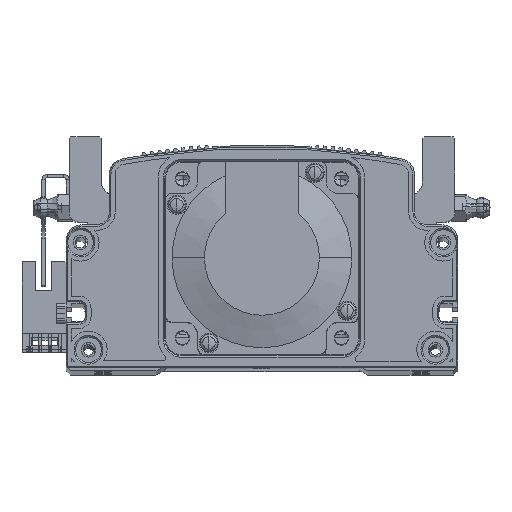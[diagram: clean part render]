
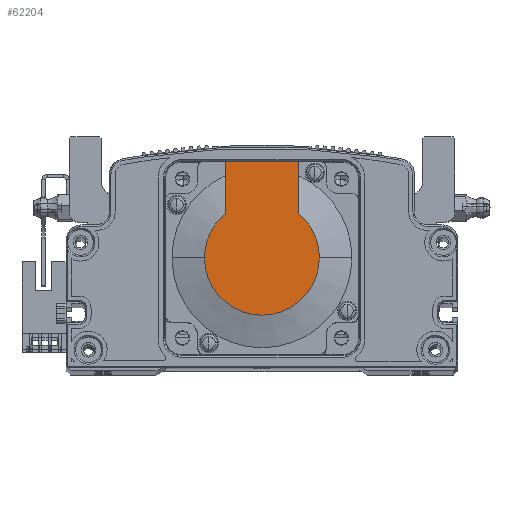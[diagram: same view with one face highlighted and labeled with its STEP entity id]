
A CAD part, top view. The second image highlights one B-rep face of the part: STEP entity #62204.
In plain terms, the highlighted planar face has unit normal (0, 0, 1) as drawn and (-1, 0, 0) by its records, which use the part's own axes.
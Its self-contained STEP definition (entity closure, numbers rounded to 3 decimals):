
#425 = VERTEX_POINT ( 'NONE', #46272 ) ;
#2066 = DIRECTION ( 'NONE',  ( -1., 0., 0. ) ) ;
#5736 = AXIS2_PLACEMENT_3D ( 'NONE', #51907, #8551, #25627 ) ;
#5826 = ORIENTED_EDGE ( 'NONE', *, *, #36213, .T. ) ;
#6850 = CARTESIAN_POINT ( 'NONE',  ( -118.5, 0., 0. ) ) ;
#7022 = DIRECTION ( 'NONE',  ( 0., -1., 0. ) ) ;
#8551 = DIRECTION ( 'NONE',  ( -1., 0., 0. ) ) ;
#13256 = ORIENTED_EDGE ( 'NONE', *, *, #21605, .T. ) ;
#13838 = VERTEX_POINT ( 'NONE', #15591 ) ;
#15029 = VERTEX_POINT ( 'NONE', #17332 ) ;
#15591 = CARTESIAN_POINT ( 'NONE',  ( -118.5, 30., 11.45 ) ) ;
#16119 = FACE_OUTER_BOUND ( 'NONE', #16470, .T. ) ;
#16470 = EDGE_LOOP ( 'NONE', ( #13256, #84710, #5826, #70041, #57354, #47664 ) ) ;
#17332 = CARTESIAN_POINT ( 'NONE',  ( -118.5, 13.735, 11.45 ) ) ;
#21149 = VECTOR ( 'NONE', #40621, 1000. ) ;
#21605 = EDGE_CURVE ( 'NONE', #80704, #425, #45235, .T. ) ;
#21984 = EDGE_CURVE ( 'NONE', #425, #74081, #83536, .T. ) ;
#22498 = CARTESIAN_POINT ( 'NONE',  ( -118.5, -8.941, 0. ) ) ;
#25627 = DIRECTION ( 'NONE',  ( 0., 0., -1. ) ) ;
#26141 = DIRECTION ( 'NONE',  ( 0., 0., -1. ) ) ;
#26832 = CARTESIAN_POINT ( 'NONE',  ( -118.5, 0., 17.881 ) ) ;
#26915 = EDGE_CURVE ( 'NONE', #80704, #13838, #63637, .T. ) ;
#31180 = AXIS2_PLACEMENT_3D ( 'NONE', #22498, #2066, #55499 ) ;
#31582 = DIRECTION ( 'NONE',  ( 0., 0., -1. ) ) ;
#36213 = EDGE_CURVE ( 'NONE', #74081, #45178, #53076, .T. ) ;
#39005 = VECTOR ( 'NONE', #60041, 1000. ) ;
#39140 = CIRCLE ( 'NONE', #5736, 17.881 ) ;
#40621 = DIRECTION ( 'NONE',  ( 0., 0., 1. ) ) ;
#40712 = CARTESIAN_POINT ( 'NONE',  ( -118.5, 0., 11.45 ) ) ;
#42415 = PLANE ( 'NONE',  #31180 ) ;
#43466 = CARTESIAN_POINT ( 'NONE',  ( -118.5, 0., 0. ) ) ;
#44244 = AXIS2_PLACEMENT_3D ( 'NONE', #43466, #83711, #31582 ) ;
#45178 = VERTEX_POINT ( 'NONE', #26832 ) ;
#45235 = LINE ( 'NONE', #46157, #39005 ) ;
#46157 = CARTESIAN_POINT ( 'NONE',  ( -118.5, -8.941, -11.45 ) ) ;
#46272 = CARTESIAN_POINT ( 'NONE',  ( -118.5, 13.735, -11.45 ) ) ;
#47664 = ORIENTED_EDGE ( 'NONE', *, *, #26915, .F. ) ;
#51907 = CARTESIAN_POINT ( 'NONE',  ( -118.5, 0., 0. ) ) ;
#52749 = VECTOR ( 'NONE', #7022, 1000. ) ;
#53076 = CIRCLE ( 'NONE', #72319, 17.881 ) ;
#55499 = DIRECTION ( 'NONE',  ( 0., 0., 1. ) ) ;
#57354 = ORIENTED_EDGE ( 'NONE', *, *, #67329, .F. ) ;
#60041 = DIRECTION ( 'NONE',  ( 0., -1., 0. ) ) ;
#60099 = EDGE_CURVE ( 'NONE', #45178, #15029, #39140, .T. ) ;
#60796 = CARTESIAN_POINT ( 'NONE',  ( -118.5, 0., -17.881 ) ) ;
#60927 = CARTESIAN_POINT ( 'NONE',  ( -118.5, 30., 25. ) ) ;
#62204 = ADVANCED_FACE ( 'NONE', ( #16119 ), #42415, .T. ) ;
#63637 = LINE ( 'NONE', #60927, #21149 ) ;
#65833 = DIRECTION ( 'NONE',  ( -1., 0., 0. ) ) ;
#67329 = EDGE_CURVE ( 'NONE', #13838, #15029, #68323, .T. ) ;
#68323 = LINE ( 'NONE', #40712, #52749 ) ;
#70041 = ORIENTED_EDGE ( 'NONE', *, *, #60099, .T. ) ;
#72319 = AXIS2_PLACEMENT_3D ( 'NONE', #6850, #65833, #26141 ) ;
#74081 = VERTEX_POINT ( 'NONE', #60796 ) ;
#80704 = VERTEX_POINT ( 'NONE', #80979 ) ;
#80979 = CARTESIAN_POINT ( 'NONE',  ( -118.5, 30., -11.45 ) ) ;
#83536 = CIRCLE ( 'NONE', #44244, 17.881 ) ;
#83711 = DIRECTION ( 'NONE',  ( -1., 0., 0. ) ) ;
#84710 = ORIENTED_EDGE ( 'NONE', *, *, #21984, .T. ) ;
